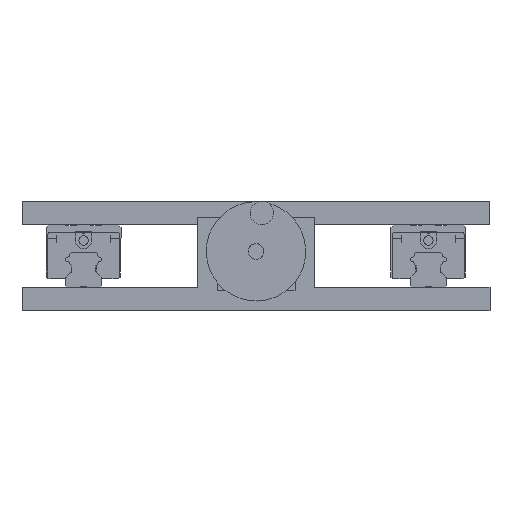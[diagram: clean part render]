
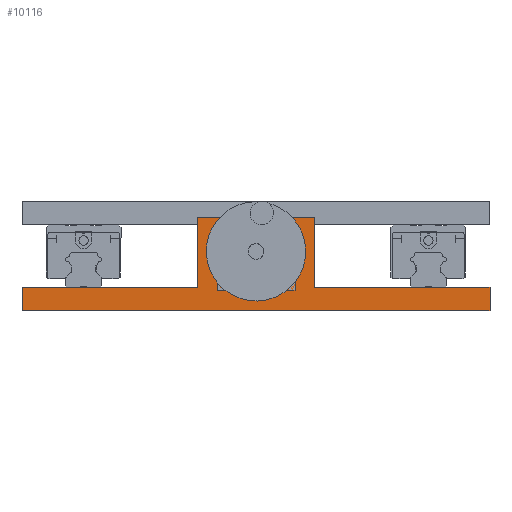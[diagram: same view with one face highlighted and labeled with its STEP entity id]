
A CAD part, front view. The second image highlights one B-rep face of the part: STEP entity #10116.
In plain terms, the highlighted planar face has unit normal (0, -1, 0).
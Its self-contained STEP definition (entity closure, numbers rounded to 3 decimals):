
#339 = DIRECTION ( 'NONE',  ( 1., 0., 0. ) ) ;
#615 = CARTESIAN_POINT ( 'NONE',  ( -150., -716.5, 15. ) ) ;
#2755 = VERTEX_POINT ( 'NONE', #68424 ) ;
#3764 = CARTESIAN_POINT ( 'NONE',  ( -150., -716.5, 15. ) ) ;
#4194 = AXIS2_PLACEMENT_3D ( 'NONE', #52065, #70525, #13765 ) ;
#4692 = DIRECTION ( 'NONE',  ( 0., 0., 1. ) ) ;
#5264 = CARTESIAN_POINT ( 'NONE',  ( 150., -716.5, 0. ) ) ;
#6031 = VECTOR ( 'NONE', #48617, 1000. ) ;
#9532 = VECTOR ( 'NONE', #56177, 1000. ) ;
#10116 = ADVANCED_FACE ( 'NONE', ( #81079, #70277 ), #17042, .F. ) ;
#11050 = VERTEX_POINT ( 'NONE', #67149 ) ;
#11371 = ORIENTED_EDGE ( 'NONE', *, *, #61945, .F. ) ;
#11806 = LINE ( 'NONE', #22069, #31613 ) ;
#12052 = EDGE_CURVE ( 'NONE', #29019, #54425, #39775, .T. ) ;
#13765 = DIRECTION ( 'NONE',  ( 0., 0., 1. ) ) ;
#14152 = VECTOR ( 'NONE', #43347, 1000. ) ;
#14771 = ORIENTED_EDGE ( 'NONE', *, *, #23463, .F. ) ;
#17042 = PLANE ( 'NONE',  #80897 ) ;
#20488 = VERTEX_POINT ( 'NONE', #53074 ) ;
#21232 = LINE ( 'NONE', #78150, #77396 ) ;
#21402 = ORIENTED_EDGE ( 'NONE', *, *, #75433, .T. ) ;
#21412 = CARTESIAN_POINT ( 'NONE',  ( 0., -716.5, 43. ) ) ;
#22069 = CARTESIAN_POINT ( 'NONE',  ( -37.5, -716.5, 60. ) ) ;
#22608 = ORIENTED_EDGE ( 'NONE', *, *, #12052, .F. ) ;
#23463 = EDGE_CURVE ( 'NONE', #51826, #38656, #47273, .T. ) ;
#24955 = CIRCLE ( 'NONE', #39053, 5. ) ;
#25024 = LINE ( 'NONE', #36321, #47722 ) ;
#26271 = LINE ( 'NONE', #50360, #9532 ) ;
#26772 = CARTESIAN_POINT ( 'NONE',  ( 0., -716.5, 33. ) ) ;
#26830 = VECTOR ( 'NONE', #339, 1000. ) ;
#26994 = ORIENTED_EDGE ( 'NONE', *, *, #43886, .F. ) ;
#27704 = ORIENTED_EDGE ( 'NONE', *, *, #71241, .F. ) ;
#29019 = VERTEX_POINT ( 'NONE', #72959 ) ;
#29797 = CARTESIAN_POINT ( 'NONE',  ( 37.5, -716.5, 60. ) ) ;
#30841 = VECTOR ( 'NONE', #53905, 1000. ) ;
#31613 = VECTOR ( 'NONE', #34795, 1000. ) ;
#32709 = EDGE_CURVE ( 'NONE', #11050, #54425, #69317, .T. ) ;
#34795 = DIRECTION ( 'NONE',  ( 1., 0., 0. ) ) ;
#34944 = CARTESIAN_POINT ( 'NONE',  ( 150., -716.5, 15. ) ) ;
#35103 = EDGE_CURVE ( 'NONE', #69336, #78713, #26271, .T. ) ;
#35449 = EDGE_CURVE ( 'NONE', #78713, #29019, #21232, .T. ) ;
#36321 = CARTESIAN_POINT ( 'NONE',  ( -37.5, -716.5, 60. ) ) ;
#38656 = VERTEX_POINT ( 'NONE', #21412 ) ;
#39053 = AXIS2_PLACEMENT_3D ( 'NONE', #65442, #59414, #46962 ) ;
#39775 = LINE ( 'NONE', #34944, #30841 ) ;
#40709 = LINE ( 'NONE', #615, #26830 ) ;
#41406 = ORIENTED_EDGE ( 'NONE', *, *, #32709, .T. ) ;
#41565 = ORIENTED_EDGE ( 'NONE', *, *, #35449, .F. ) ;
#41661 = CARTESIAN_POINT ( 'NONE',  ( -150., -716.5, 15. ) ) ;
#41951 = DIRECTION ( 'NONE',  ( 0., 1., 0. ) ) ;
#42067 = VERTEX_POINT ( 'NONE', #44796 ) ;
#43347 = DIRECTION ( 'NONE',  ( 1., 0., 0. ) ) ;
#43886 = EDGE_CURVE ( 'NONE', #20488, #69336, #11806, .T. ) ;
#43897 = CARTESIAN_POINT ( 'NONE',  ( -150., -716.5, 0. ) ) ;
#44796 = CARTESIAN_POINT ( 'NONE',  ( -150., -716.5, 15. ) ) ;
#46962 = DIRECTION ( 'NONE',  ( 0., 0., 1. ) ) ;
#47273 = CIRCLE ( 'NONE', #4194, 5. ) ;
#47722 = VECTOR ( 'NONE', #55569, 1000. ) ;
#48617 = DIRECTION ( 'NONE',  ( 0., 0., -1. ) ) ;
#50360 = CARTESIAN_POINT ( 'NONE',  ( 37.5, -716.5, 60. ) ) ;
#51826 = VERTEX_POINT ( 'NONE', #26772 ) ;
#52065 = CARTESIAN_POINT ( 'NONE',  ( 0., -716.5, 38. ) ) ;
#53074 = CARTESIAN_POINT ( 'NONE',  ( -37.5, -716.5, 60. ) ) ;
#53704 = EDGE_LOOP ( 'NONE', ( #27704, #14771 ) ) ;
#53905 = DIRECTION ( 'NONE',  ( 0., 0., -1. ) ) ;
#54425 = VERTEX_POINT ( 'NONE', #5264 ) ;
#54934 = EDGE_CURVE ( 'NONE', #20488, #2755, #25024, .T. ) ;
#55569 = DIRECTION ( 'NONE',  ( 0., 0., -1. ) ) ;
#56177 = DIRECTION ( 'NONE',  ( 0., 0., -1. ) ) ;
#58307 = LINE ( 'NONE', #3764, #6031 ) ;
#59414 = DIRECTION ( 'NONE',  ( 0., -1., 0. ) ) ;
#59725 = EDGE_LOOP ( 'NONE', ( #41406, #22608, #41565, #69640, #26994, #69266, #11371, #21402 ) ) ;
#61945 = EDGE_CURVE ( 'NONE', #42067, #2755, #40709, .T. ) ;
#62465 = CARTESIAN_POINT ( 'NONE',  ( 37.5, -716.5, 15. ) ) ;
#65442 = CARTESIAN_POINT ( 'NONE',  ( 0., -716.5, 38. ) ) ;
#66309 = DIRECTION ( 'NONE',  ( 1., 0., 0. ) ) ;
#67149 = CARTESIAN_POINT ( 'NONE',  ( -150., -716.5, 0. ) ) ;
#68424 = CARTESIAN_POINT ( 'NONE',  ( -37.5, -716.5, 15. ) ) ;
#69266 = ORIENTED_EDGE ( 'NONE', *, *, #54934, .T. ) ;
#69317 = LINE ( 'NONE', #43897, #14152 ) ;
#69336 = VERTEX_POINT ( 'NONE', #29797 ) ;
#69640 = ORIENTED_EDGE ( 'NONE', *, *, #35103, .F. ) ;
#70277 = FACE_OUTER_BOUND ( 'NONE', #59725, .T. ) ;
#70525 = DIRECTION ( 'NONE',  ( 0., -1., 0. ) ) ;
#71241 = EDGE_CURVE ( 'NONE', #38656, #51826, #24955, .T. ) ;
#72959 = CARTESIAN_POINT ( 'NONE',  ( 150., -716.5, 15. ) ) ;
#75433 = EDGE_CURVE ( 'NONE', #42067, #11050, #58307, .T. ) ;
#77396 = VECTOR ( 'NONE', #66309, 1000. ) ;
#78150 = CARTESIAN_POINT ( 'NONE',  ( -150., -716.5, 15. ) ) ;
#78713 = VERTEX_POINT ( 'NONE', #62465 ) ;
#80897 = AXIS2_PLACEMENT_3D ( 'NONE', #41661, #41951, #4692 ) ;
#81079 = FACE_BOUND ( 'NONE', #53704, .T. ) ;
